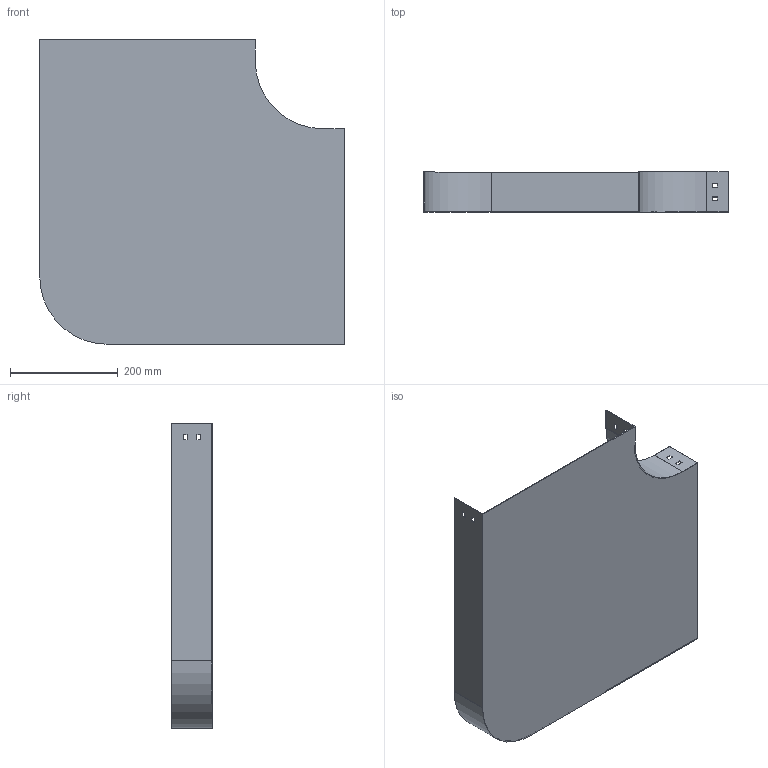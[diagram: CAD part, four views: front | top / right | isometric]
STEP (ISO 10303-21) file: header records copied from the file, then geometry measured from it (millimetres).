
FILE_DESCRIPTION (( 'STEP AP214' ), '1' );
FILE_NAME ('P9_407.step', '2025-07-16T09:21:05', ( '' ), ( '' ), 'SwSTEP 2.0', 'SolidWorks 2023', '' );
FILE_SCHEMA (( 'AUTOMOTIVE_DESIGN' ));
Length unit declared in the file: millimetre
Products named in the file (1): P9_407
Bounding box: 565 x 75 x 565 mm (x, y, z)
Volume: 586295.1 mm3; surface area: 785804.8 mm2
Topology: 1 solids, 1 shells, 50 faces, 144 edges, 96 vertices
Faces by surface type: plane 46, cylinder 4
Entity records: 1671 total; most frequent: CARTESIAN_POINT 291, ORIENTED_EDGE 288, DIRECTION 254, EDGE_CURVE 144, VECTOR 136, LINE 136, VERTEX_POINT 96, EDGE_LOOP 66
